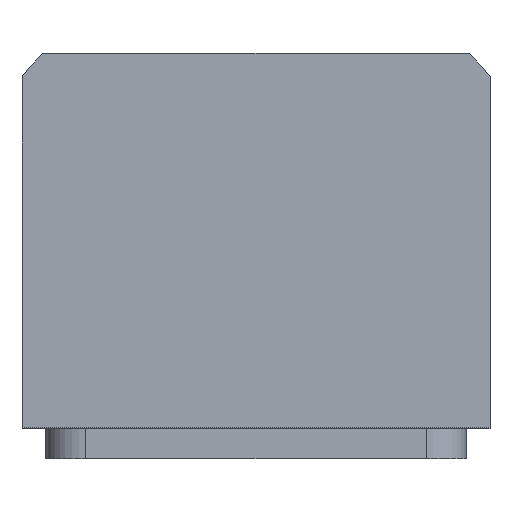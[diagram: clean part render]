
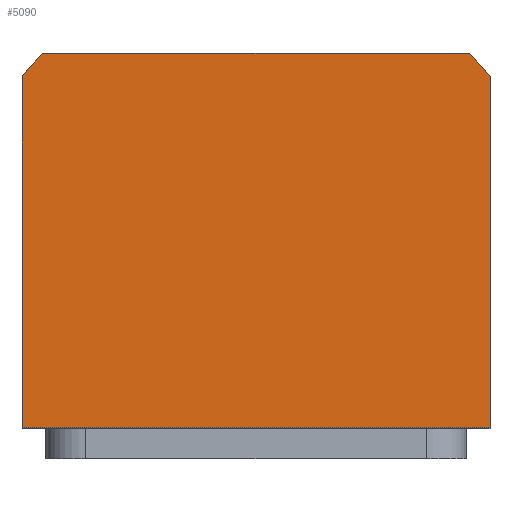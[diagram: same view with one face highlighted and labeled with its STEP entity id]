
A CAD part, top view. The second image highlights one B-rep face of the part: STEP entity #5090.
In plain terms, the highlighted planar face has unit normal (0, 0, 1).
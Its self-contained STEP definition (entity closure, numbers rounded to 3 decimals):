
#2355=LINE('',#15903,#3166);
#2376=LINE('',#16530,#3187);
#2389=LINE('',#16579,#3200);
#2401=LINE('',#16608,#3212);
#3166=VECTOR('',#11502,1.);
#3187=VECTOR('',#11627,1.);
#3200=VECTOR('',#11676,1.);
#3212=VECTOR('',#11702,1.);
#4055=PLANE('',#11079);
#4407=FACE_OUTER_BOUND('',#5843,.T.);
#5090=ADVANCED_FACE('',(#4407),#4055,.T.);
#5534=CIRCLE('',#11055,44.5);
#5538=CIRCLE('',#11061,44.5);
#5843=EDGE_LOOP('',(#6599,#6600,#6601,#6602,#6603,#6604));
#6599=ORIENTED_EDGE('',*,*,#9794,.T.);
#6600=ORIENTED_EDGE('',*,*,#9701,.T.);
#6601=ORIENTED_EDGE('',*,*,#9804,.T.);
#6602=ORIENTED_EDGE('',*,*,#9818,.T.);
#6603=ORIENTED_EDGE('',*,*,#9798,.T.);
#6604=ORIENTED_EDGE('',*,*,#9835,.T.);
#8801=VERTEX_POINT('',#15873);
#8816=VERTEX_POINT('',#15902);
#8900=VERTEX_POINT('',#16526);
#8902=VERTEX_POINT('',#16533);
#8905=VERTEX_POINT('',#16538);
#8909=VERTEX_POINT('',#16550);
#9701=EDGE_CURVE('',#8801,#8816,#2355,.T.);
#9794=EDGE_CURVE('',#8900,#8801,#2376,.T.);
#9798=EDGE_CURVE('',#8902,#8905,#5534,.T.);
#9804=EDGE_CURVE('',#8816,#8909,#5538,.T.);
#9818=EDGE_CURVE('',#8909,#8902,#2389,.T.);
#9835=EDGE_CURVE('',#8905,#8900,#2401,.T.);
#11055=AXIS2_PLACEMENT_3D('',#16539,#11634,#11635);
#11061=AXIS2_PLACEMENT_3D('',#16551,#11648,#11649);
#11079=AXIS2_PLACEMENT_3D('',#16621,#11712,#11713);
#11502=DIRECTION('',(0.,1.,0.));
#11627=DIRECTION('',(1.,0.,0.));
#11634=DIRECTION('',(0.,0.,1.));
#11635=DIRECTION('',(1.,0.,0.));
#11648=DIRECTION('',(0.,0.,1.));
#11649=DIRECTION('',(1.,0.,0.));
#11676=DIRECTION('',(-1.,0.,0.));
#11702=DIRECTION('',(0.,-1.,0.));
#11712=DIRECTION('',(0.,0.,1.));
#11713=DIRECTION('',(-1.,0.,0.));
#15873=CARTESIAN_POINT('',(35.,-25.,52.));
#15902=CARTESIAN_POINT('',(35.,27.482,52.));
#15903=CARTESIAN_POINT('',(35.,27.482,52.));
#16526=CARTESIAN_POINT('',(-35.,-25.,52.));
#16530=CARTESIAN_POINT('',(35.,-25.,52.));
#16533=CARTESIAN_POINT('',(-31.926,31.,52.));
#16538=CARTESIAN_POINT('',(-35.,27.482,52.));
#16539=CARTESIAN_POINT('',(0.,0.,52.));
#16550=CARTESIAN_POINT('',(31.926,31.,52.));
#16551=CARTESIAN_POINT('',(0.,0.,52.));
#16579=CARTESIAN_POINT('',(-31.926,31.,52.));
#16608=CARTESIAN_POINT('',(-35.,-25.,52.));
#16621=CARTESIAN_POINT('',(0.,0.,52.));
